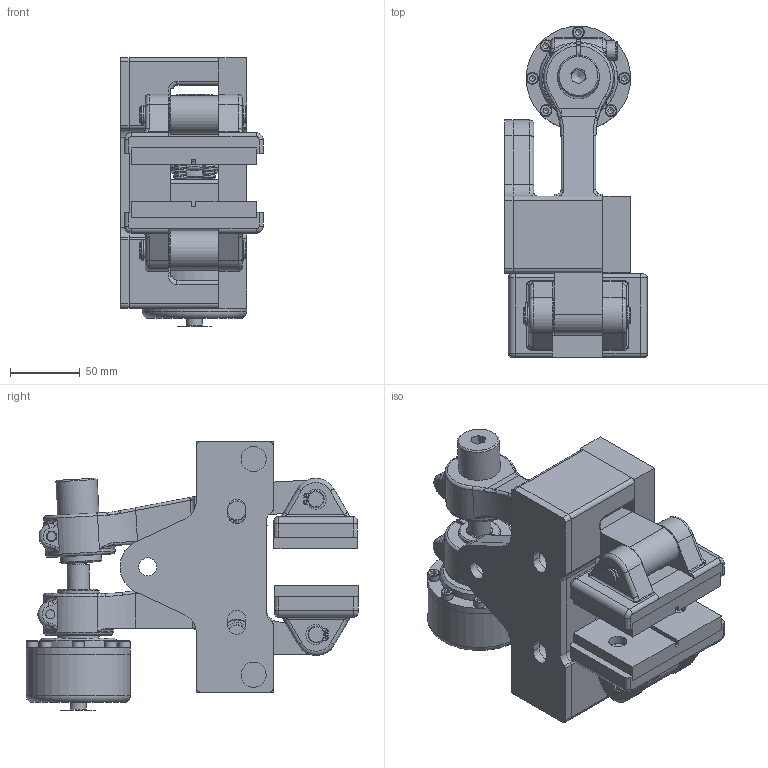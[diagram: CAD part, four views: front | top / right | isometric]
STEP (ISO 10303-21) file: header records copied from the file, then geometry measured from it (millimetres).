
FILE_DESCRIPTION(/* description */ ('','CAx-IF Rec.Pracs.---Representation and Presentation of Product Manufacturing Information (PMI)---4.0---2014-10-13'),/* implementation_level */ '2;1');
FILE_NAME(/* name */ 'X:\INVENTOR\DISEGNI\19_Pinze\STEP x Sito\OLEO-POSITIVE\19_26_031_04 POH031_25,4.stp',/* time_stamp */ '2018-02-20T11:18:37+01:00',/* author */ ('stefano'),/* organization */ (''),/* preprocessor_version */ 'ST-DEVELOPER v17',/* originating_system */ 'Autodesk Inventor 2018',/* authorisation */ '');
FILE_SCHEMA (('AP242_MANAGED_MODEL_BASED_3D_ENGINEERING_MIM_LF { 1 0 10303 442 1 1 4 }'));
Length unit declared in the file: millimetre
Products named in the file (1): 19_26_031_04 POH031_25,4_Substitute_1
Bounding box: 102.5 x 238.5 x 193.1 mm (x, y, z)
Volume: 1550541.3 mm3; surface area: 229350.6 mm2
Topology: 1 solids, 1 shells, 984 faces, 2680 edges, 1746 vertices
Faces by surface type: plane 499, cylinder 278, bspline 72, torus 67, cone 67, sphere 1
Full cylindrical faces by diameter (mm): 1.7 x18, 3 x1, 4.134 x1, 5 x1, 6 x5, 6.5 x4, 6.647 x1, 7.25 x3, 8 x2, 8.5 x10, 9.5 x2, 10 x1, 11.445 x1, 11.5 x4, 12 x15, 13 x8, 13.4 x6, 13.5 x2, 14 x12, 16 x7, 16.5 x4, 19 x1, 21 x3, 22.6 x1, 30 x2, 56.5 x1, 58 x1, 75 x2
Entity records: 37233 total; most frequent: CARTESIAN_POINT 11137, DIRECTION 5328, ORIENTED_EDGE 5292, EDGE_CURVE 2646, AXIS2_PLACEMENT_3D 2015, VERTEX_POINT 1746, LINE 1298, VECTOR 1298
